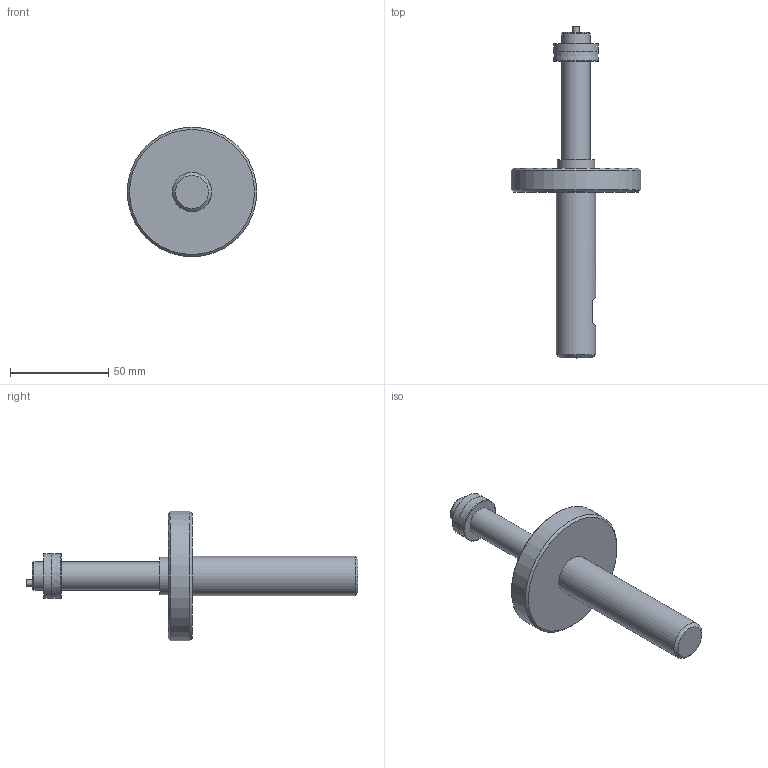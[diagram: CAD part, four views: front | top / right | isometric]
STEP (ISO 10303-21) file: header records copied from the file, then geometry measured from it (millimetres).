
FILE_DESCRIPTION (( 'STEP AP203' ), '1' );
FILE_NAME ('AF56-SIMPLE - AF56-14.50M-23.00M.step', '2025-01-22T13:31:57', ( '' ), ( '' ), 'SwSTEP 2.0', 'SolidWorks 2024', '' );
FILE_SCHEMA (( 'CONFIG_CONTROL_DESIGN' ));
Length unit declared in the file: inch
Products named in the file (1): AF56-SIMPLE - AF56-14.50M-23.00M
Bounding box: 66.04 x 169.29 x 66.04 mm (x, y, z)
Volume: 81760 mm3; surface area: 18276.1 mm2
Topology: 1 solids, 1 shells, 24 faces, 40 edges, 25 vertices
Faces by surface type: plane 11, cylinder 7, cone 5, torus 1
Full cylindrical faces by diameter (mm): 3.175 x1, 14.376 x2, 19.05 x1, 20 x1, 22.494 x1, 66.04 x1
Entity records: 569 total; most frequent: DIRECTION 94, CARTESIAN_POINT 81, ORIENTED_EDGE 52, AXIS2_PLACEMENT_3D 45, EDGE_LOOP 44, FACE_OUTER_BOUND 32, EDGE_CURVE 26, VERTEX_POINT 24
